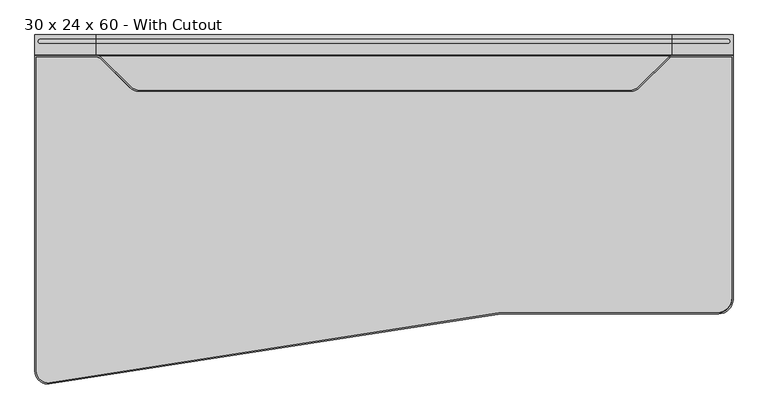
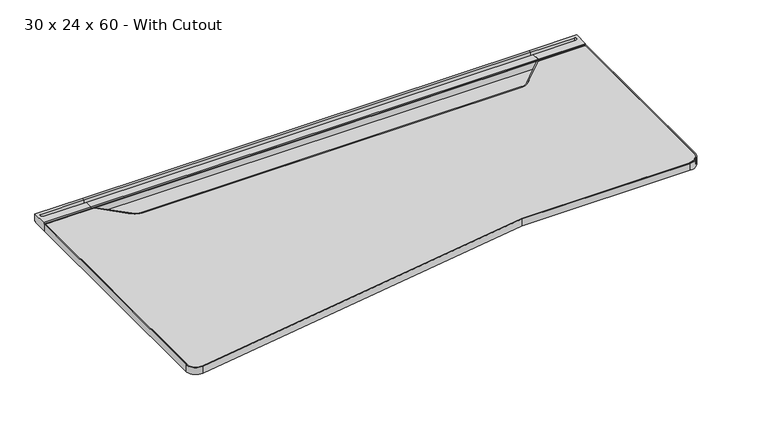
"""IFC4 building model written with IfcOpenShell, lengths in millimetres: furniture geometry, Steelcase - C Scape - Desking - Left Hand Transition - Non Sliding : 30 x 24 x 60 - With Cutout."""

from ifc_helpers import new_model, si_unit, point, frame, frame_2d, origin, place, context, project, spatial, polyline, circle_curve, trimmed, segment, composite_curve, outline, extrude, faceted_brep, source, transform, mapped, element, save
from ifc_brep_helpers import plane_surface, cylinder_surface, revolved_surface, advanced_brep


def furniture_30_x_24_x_60_with_cutout_45655707(model_context):
    return source(origin(), model_context, "Body", "SolidModel", [
        advanced_brep(
        [(436.2322876, -45.3135132, 703.3768), (436.2322876, -4.0331902, 703.3768), (436.2322876, -3.2278472, 705.1038636), (436.2322876, 0.0, 705.1038636), (436.2322876, 0.0, 725.932), (436.2322876, -8.5111084, 725.932), (436.2322876, -8.5111084, 713.486), (436.2322876, -19.3290527, 713.486), (436.2322876, -19.3290527, 725.932), (436.2322876, -42.7750923, 725.932), (436.2322876, -42.7750923, 722.4268341), (436.2322876, -45.3135132, 722.4268341), (303.2125, -45.3135132, 703.3768), (303.2125, -45.3135132, 722.4268341), (303.2125, -42.7750923, 722.4268341), (303.2125, -42.7750923, 725.932), (303.2125, 0.0, 725.932), (303.2125, 0.0, 705.1038636), (303.2125, -3.2278472, 705.1038636), (303.2125, -4.0331902, 703.3768), (314.9745728, -19.3290527, 725.932), (314.9745728, -8.5111084, 725.932), (314.9745728, -8.5111084, 713.486), (314.9745728, -19.3290527, 713.486)],
        [
            (0, 1),
            (1, 2),
            (2, 3),
            (3, 4),
            (4, 5),
            (5, 6),
            (6, 7),
            (7, 8),
            (8, 9),
            (9, 10),
            (10, 11),
            (11, 0),
            (12, 13),
            (13, 14),
            (14, 15),
            (15, 16),
            (16, 17),
            (17, 18),
            (18, 19),
            (19, 12),
            (0, 12),
            (19, 1),
            (18, 2),
            (17, 3),
            (16, 4),
            (15, 9),
            (8, 20),
            (20, 21, circle_curve(frame((314.9745728, -13.9200806, 725.932), z_axis=(0.0, 0.0, -1.0), x_axis=(1.0, 0.0, 0.0)), 5.4089722)),
            (21, 5),
            (14, 10),
            (13, 11),
            (6, 22),
            (22, 23, circle_curve(frame((314.9745728, -13.9200806, 713.486), z_axis=(0.0, 0.0, 1.0), x_axis=(1.0, 0.0, 0.0)), 5.4089722)),
            (23, 7),
            (21, 22),
            (20, 23),
        ],
        [
            plane_surface(frame((436.2322876, -45.3135132, 703.3768), z_axis=(1.0, 0.0, 0.0), x_axis=(0.0, 1.0, 0.0))),
            plane_surface(frame((303.2125, -45.3135132, 703.3768), z_axis=(-1.0, 0.0, 0.0), x_axis=(0.0, -1.0, 0.0))),
            plane_surface(frame((436.2322876, -45.3135132, 703.3768), z_axis=(0.0, 0.0, -1.0), x_axis=(-1.0, 0.0, 0.0))),
            plane_surface(frame((436.2322876, -4.0331902, 703.3768), z_axis=(0.0, 0.9063077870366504, -0.4226182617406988), x_axis=(-1.0, 0.0, 0.0))),
            plane_surface(frame((436.2322876, -3.2278472, 705.1038636), z_axis=(0.0, 0.0, -1.0), x_axis=(-1.0, 0.0, 0.0))),
            plane_surface(frame((436.2322876, 0.0, 705.1038636), z_axis=(0.0, 1.0, 0.0), x_axis=(-1.0, 0.0, 0.0))),
            plane_surface(frame((436.2322876, 0.0, 725.932), z_axis=(0.0, 0.0, 1.0), x_axis=(-1.0, 0.0, 0.0))),
            plane_surface(frame((436.2322876, -42.7750923, 725.932), z_axis=(0.0, -1.0, 0.0), x_axis=(-1.0, 0.0, 0.0))),
            plane_surface(frame((436.2322876, -42.7750923, 722.4268341), z_axis=(0.0, 0.0, 1.0), x_axis=(-1.0, 0.0, 0.0))),
            plane_surface(frame((436.2322876, -45.3135132, 722.4268341), z_axis=(0.0, -1.0, 0.0), x_axis=(-1.0, 0.0, 0.0))),
            plane_surface(frame((314.9745728, -8.5111084, 713.486), z_axis=(0.0, 0.0, 1.0), x_axis=(1.0, 0.0, 0.0))),
            plane_surface(frame((436.2322876, -8.5111084, 731.2180541), z_axis=(0.0, -1.0, 0.0), x_axis=(0.0, 0.0, -1.0))),
            revolved_surface(polyline([(320.38354499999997, -13.9200806, 725.932), (320.38354499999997, -13.9200806, 713.486)]), (314.9745728, -13.9200806, 713.486), (0.0, 0.0, 1.0)),
            plane_surface(frame((314.9745728, -19.3290527, 731.2180541), z_axis=(0.0, 1.0, 0.0), x_axis=(0.0, 0.0, -1.0))),
        ],
        [
            (0, [[1, 2, 3, 4, 5, 6, 7, 8, 9, 10, 11, 12]]),
            (1, [[13, 14, 15, 16, 17, 18, 19, 20]]),
            (2, [[-1, 21, -20, 22]]),
            (3, [[-2, -22, -19, 23]]),
            (4, [[-3, -23, -18, 24]]),
            (5, [[-4, -24, -17, 25]]),
            (6, [[-16, 26, -9, 27, 28, 29, -5, -25]]),
            (7, [[-10, -26, -15, 30]]),
            (8, [[-11, -30, -14, 31]]),
            (9, [[-12, -31, -13, -21]]),
            (10, [[32, 33, 34, -7]]),
            (11, [[-32, -6, -29, 35]]),
            (12, [[-33, -35, -28, 36]]),
            (13, [[-34, -36, -27, -8]]),
        ],
    ),
        faceted_brep([(322.2632632, -565.0752923, 700.7093833), (336.5383728, -565.0752923, 693.4200291), (417.9775879, -565.0752923, 693.4200291), (420.5981301, -565.0752923, 679.3263935), (436.2322876, -565.0752923, 679.3263935), (436.2322876, -565.0752923, 703.3768), (322.2632632, -565.0752923, 703.3768), (322.2632632, -4.0331902, 700.7093833), (322.2632632, -4.0331902, 703.3768), (436.2322876, -4.0331902, 703.3768), (436.2322876, -4.0331902, 629.3866), (429.8838347, -4.0331902, 629.3866), (417.9775879, -4.0331902, 693.4200291), (336.5383728, -4.0331902, 693.4200291), (429.8838347, -364.1172546, 629.3866), (422.7634051, -376.5599397, 667.6812472), (436.2322876, -364.1172546, 629.3866), (436.2322876, -376.5599397, 667.6812472)], [[[0, 1, 2, 3, 4, 5, 6]], [[7, 8, 9, 10, 11, 12, 13]], [[1, 0, 7, 13]], [[2, 1, 13, 12]], [[12, 11, 14, 15, 3, 2]], [[11, 10, 16, 14]], [[10, 9, 5, 4, 17, 16]], [[6, 5, 9, 8]], [[0, 6, 8, 7]], [[15, 17, 4, 3]], [[17, 15, 14, 16]]]),
        extrude(outline(composite_curve([segment(polyline([(-293.5216187, 657.3775839), (-559.0022133, 680.1371551)]), True, "CONTINUOUS"), segment(trimmed(circle_curve(frame_2d((-558.7581271, 682.9843154)), 2.8576039), [point((-559.0022133, 680.1371551))], [point((-561.5383043, 682.3236226))], False, "CARTESIAN"), True, "CONTINUOUS"), segment(polyline([(-561.5383043, 682.3236226), (-566.0887542, 701.4717905), (-557.8334441, 701.4717905), (-557.8334441, 703.3768), (-442.6683806, 703.3768), (-442.6683806, 696.3917953), (-318.2108611, 696.3917953), (-318.2108611, 703.3768), (-293.5216187, 703.3768), (-293.5216187, 657.3775839)]), True, "CONTINUOUS")], self_intersect=False)), frame((877.824, 0.0, 0.0), z_axis=(1.0, 0.0, 0.0), x_axis=(0.0, 1.0, 0.0)), (0.0, 0.0, 1.0), 73.152),
        advanced_brep(
        [(1694.1927124, -45.3135132, 703.3768), (1694.1927124, -45.3135132, 722.4268341), (1694.1927124, -42.7750923, 722.4268341), (1694.1927124, -42.7750923, 725.932), (1694.1927124, -19.3290527, 725.932), (1694.1927124, -19.3290527, 713.486), (1694.1927124, -8.5111084, 713.486), (1694.1927124, -8.5111084, 725.932), (1694.1927124, 0.0, 725.932), (1694.1927124, 0.0, 705.1038636), (1694.1927124, -3.2278472, 705.1038636), (1694.1927124, -4.0331902, 703.3768), (1827.2125, -45.3135132, 703.3768), (1827.2125, -4.0331902, 703.3768), (1827.2125, -3.2278472, 705.1038636), (1827.2125, 0.0, 705.1038636), (1827.2125, 0.0, 725.932), (1827.2125, -42.7750923, 725.932), (1827.2125, -42.7750923, 722.4268341), (1827.2125, -45.3135132, 722.4268341), (1815.4504272, -8.5111084, 725.932), (1815.4504272, -19.3290527, 725.932), (1815.4504272, -19.3290527, 713.486), (1815.4504272, -8.5111084, 713.486)],
        [
            (0, 1),
            (1, 2),
            (2, 3),
            (3, 4),
            (4, 5),
            (5, 6),
            (6, 7),
            (7, 8),
            (8, 9),
            (9, 10),
            (10, 11),
            (11, 0),
            (12, 13),
            (13, 14),
            (14, 15),
            (15, 16),
            (16, 17),
            (17, 18),
            (18, 19),
            (19, 12),
            (11, 13),
            (12, 0),
            (10, 14),
            (9, 15),
            (8, 16),
            (7, 20),
            (20, 21, circle_curve(frame((1815.4504272, -13.9200806, 725.932), z_axis=(0.0, 0.0, -1.0), x_axis=(-1.0, 0.0, 0.0)), 5.4089722)),
            (21, 4),
            (3, 17),
            (2, 18),
            (1, 19),
            (5, 22),
            (22, 23, circle_curve(frame((1815.4504272, -13.9200806, 713.486), z_axis=(0.0, 0.0, 1.0), x_axis=(-1.0, 0.0, 0.0)), 5.4089722)),
            (23, 6),
            (23, 20),
            (22, 21),
        ],
        [
            plane_surface(frame((1694.1927124, -45.3135132, 703.3768), z_axis=(-1.0, 0.0, 0.0), x_axis=(0.0, 1.0, 0.0))),
            plane_surface(frame((1827.2125, -45.3135132, 703.3768), z_axis=(1.0, 0.0, 0.0), x_axis=(0.0, -1.0, 0.0))),
            plane_surface(frame((1694.1927124, -45.3135132, 703.3768), z_axis=(0.0, 0.0, -1.0), x_axis=(1.0, 0.0, 0.0))),
            plane_surface(frame((1694.1927124, -4.0331902, 703.3768), z_axis=(0.0, 0.9063077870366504, -0.4226182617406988), x_axis=(1.0, 0.0, 0.0))),
            plane_surface(frame((1694.1927124, -3.2278472, 705.1038636), z_axis=(0.0, 0.0, -1.0), x_axis=(1.0, 0.0, 0.0))),
            plane_surface(frame((1694.1927124, 0.0, 705.1038636), z_axis=(0.0, 1.0, 0.0), x_axis=(1.0, 0.0, 0.0))),
            plane_surface(frame((1694.1927124, 0.0, 725.932), z_axis=(0.0, 0.0, 1.0), x_axis=(1.0, 0.0, 0.0))),
            plane_surface(frame((1694.1927124, -42.7750923, 725.932), z_axis=(0.0, -1.0, 0.0), x_axis=(1.0, 0.0, 0.0))),
            plane_surface(frame((1694.1927124, -42.7750923, 722.4268341), z_axis=(0.0, 0.0, 1.0), x_axis=(1.0, 0.0, 0.0))),
            plane_surface(frame((1694.1927124, -45.3135132, 722.4268341), z_axis=(0.0, -1.0, 0.0), x_axis=(1.0, 0.0, 0.0))),
            plane_surface(frame((1815.4504272, -8.5111084, 713.486), z_axis=(0.0, 0.0, 1.0), x_axis=(-1.0, 0.0, 0.0))),
            plane_surface(frame((1694.1927124, -8.5111084, 731.2180541), z_axis=(0.0, -1.0, 0.0), x_axis=(0.0, 0.0, -1.0))),
            revolved_surface(polyline([(1810.0414549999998, -13.9200806, 725.932), (1810.0414549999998, -13.9200806, 713.486)]), (1815.4504272, -13.9200806, 713.486), (0.0, 0.0, 1.0)),
            plane_surface(frame((1815.4504272, -19.3290527, 731.2180541), z_axis=(0.0, 1.0, 0.0), x_axis=(0.0, 0.0, -1.0))),
        ],
        [
            (0, [[1, 2, 3, 4, 5, 6, 7, 8, 9, 10, 11, 12]]),
            (1, [[13, 14, 15, 16, 17, 18, 19, 20]]),
            (2, [[21, -13, 22, -12]]),
            (3, [[23, -14, -21, -11]]),
            (4, [[24, -15, -23, -10]]),
            (5, [[25, -16, -24, -9]]),
            (6, [[-25, -8, 26, 27, 28, -4, 29, -17]]),
            (7, [[30, -18, -29, -3]]),
            (8, [[31, -19, -30, -2]]),
            (9, [[-22, -20, -31, -1]]),
            (10, [[-6, 32, 33, 34]]),
            (11, [[35, -26, -7, -34]]),
            (12, [[36, -27, -35, -33]]),
            (13, [[-5, -28, -36, -32]]),
        ],
    ),
        faceted_brep([(1808.1617368, -565.0752923, 700.7093833), (1808.1617368, -565.0752923, 703.3768), (1694.1927124, -565.0752923, 703.3768), (1694.1927124, -565.0752923, 679.3263935), (1709.8268699, -565.0752923, 679.3263935), (1712.4474121, -565.0752923, 693.4200291), (1793.8866272, -565.0752923, 693.4200291), (1808.1617368, -4.0331902, 700.7093833), (1793.8866272, -4.0331902, 693.4200291), (1712.4474121, -4.0331902, 693.4200291), (1700.5411653, -4.0331902, 629.3866), (1694.1927124, -4.0331902, 629.3866), (1694.1927124, -4.0331902, 703.3768), (1808.1617368, -4.0331902, 703.3768), (1707.6615949, -376.5599397, 667.6812472), (1700.5411653, -364.1172546, 629.3866), (1694.1927124, -364.1172546, 629.3866), (1694.1927124, -376.5599397, 667.6812472)], [[[0, 1, 2, 3, 4, 5, 6]], [[7, 8, 9, 10, 11, 12, 13]], [[6, 8, 7, 0]], [[5, 9, 8, 6]], [[9, 5, 4, 14, 15, 10]], [[10, 15, 16, 11]], [[11, 16, 17, 3, 2, 12]], [[1, 13, 12, 2]], [[0, 7, 13, 1]], [[14, 4, 3, 17]], [[17, 16, 15, 14]]]),
        extrude(outline(polyline([(-8.5111084, 725.932), (0.0, 725.932), (0.0, 705.1038636), (-3.2278472, 705.1038636), (-4.0331902, 703.3768), (-45.3135132, 703.3768), (-45.3135132, 722.4268341), (-42.7750923, 722.4268341), (-42.7750923, 725.932), (-19.3290527, 725.932), (-19.3290527, 713.486), (-8.5111084, 713.486), (-8.5111084, 725.932)])), frame((436.2322876, 0.0, 0.0), z_axis=(1.0, 0.0, 0.0), x_axis=(0.0, 1.0, 0.0)), (0.0, 0.0, 1.0), 1257.9604248),
        extrude(outline(polyline([(1694.1927124, -4.0331902), (1694.1927124, -293.5216187), (436.2322876, -293.5216187), (436.2322876, -4.0331902), (1694.1927124, -4.0331902)])), frame((0.0, 0.0, 629.3866), z_axis=(0.0, 0.0, 1.0), x_axis=(1.0, 0.0, 0.0)), (0.0, 0.0, 1.0), 73.9902),
        extrude(outline(composite_curve([segment(polyline([(306.2605, -48.3660689), (435.6372608, -48.3660689)]), True, "CONTINUOUS"), segment(trimmed(circle_curve(frame_2d((435.6372608, -64.9605938)), 16.5945249), [point((435.6372608, -48.3660689))], [point((447.3713581, -53.2264889))], False, "CARTESIAN"), True, "CONTINUOUS"), segment(polyline([(447.3713581, -53.2264889), (507.4994608, -113.3545523)]), True, "CONTINUOUS"), segment(trimmed(circle_curve(frame_2d((534.4402204, -86.4137752)), 38.1), [point((507.4994608, -113.3545523))], [point((534.4402204, -124.5137752))], True, "CARTESIAN"), True, "CONTINUOUS"), segment(polyline([(534.4402204, -124.5137752), (1599.1598212, -124.5137752)]), True, "CONTINUOUS"), segment(trimmed(circle_curve(frame_2d((1599.1598212, -86.4137752)), 38.1), [point((1599.1598212, -124.5137752))], [point((1626.1005905, -113.3545426))], True, "CARTESIAN"), True, "CONTINUOUS"), segment(polyline([(1626.1005905, -113.3545426), (1687.7230199, -51.7321087)]), True, "CONTINUOUS"), segment(trimmed(circle_curve(frame_2d((1695.45, -58.9180007)), 10.5519318), [point((1687.7230199, -51.7321087))], [point((1695.45, -48.3660689))], False, "CARTESIAN"), True, "CONTINUOUS"), segment(polyline([(1695.45, -48.3660689), (1824.1645, -48.3660689), (1824.1645, -574.7990234)]), True, "CONTINUOUS"), segment(trimmed(circle_curve(frame_2d((1792.4145, -574.7990234)), 31.75), [point((1824.1645, -574.7990234))], [point((1792.4145, -606.5490234))], False, "CARTESIAN"), True, "CONTINUOUS"), segment(polyline([(1792.4145, -606.5490234), (1320.7997595, -606.5490234), (334.6636568, -759.8823654)]), True, "CONTINUOUS"), segment(trimmed(circle_curve(frame_2d((331.6605, -734.6605286)), 25.4), [point((334.6636568, -759.8823654))], [point((306.2605, -734.6605286))], False, "CARTESIAN"), True, "CONTINUOUS"), segment(polyline([(306.2605, -734.6605286), (306.2605, -48.3660689)]), True, "CONTINUOUS")], self_intersect=False)), frame((0.0, 0.0, 703.3768), z_axis=(0.0, 0.0, 1.0), x_axis=(1.0, 0.0, 0.0)), (0.0, 0.0, 1.0), 20.5232),
        advanced_brep(
        [(1824.1625156, -577.8497165, 703.3768), (1795.4632087, -606.5490234, 703.3768), (1795.4632087, -606.5490234, 723.9), (1824.1625156, -577.8497165, 723.9), (1827.2134922, -577.8497165, 723.9), (1795.4632087, -609.6, 723.9), (1795.4632087, -609.6, 703.3768), (1827.2134922, -577.8497165, 703.3768), (1824.1625156, -48.3666358, 723.9), (1824.1625156, -48.3666358, 703.3768), (1827.2134922, -45.3156593, 703.3768), (1827.2134922, -45.3156593, 723.9), (1695.45, -48.3666358, 723.9), (1695.45, -48.3666358, 703.3768), (1695.45, -45.3156593, 703.3768), (1695.45, -45.3156593, 723.9), (1687.7234351, -51.7324948, 703.3768), (1687.7234351, -51.7324948, 723.9), (1685.4892627, -49.6547721, 723.9), (1685.4892627, -49.6547721, 703.3768), (1624.9189809, -114.5369541, 723.9), (1624.9189809, -114.5369541, 703.3768), (1622.7616146, -112.3795879, 703.3768), (1622.7616146, -112.3795879, 723.9), (1600.8314365, -124.5143421, 703.3768), (1600.8314365, -124.5143421, 723.9), (1600.8314365, -121.4633656, 723.9), (1600.8314365, -121.4633656, 703.3768), (532.7685947, -124.5143421, 723.9), (532.7685947, -124.5143421, 703.3768), (532.7685947, -121.4633656, 703.3768), (532.7685947, -121.4633656, 723.9), (508.6810781, -114.5369706, 703.3768), (508.6810781, -114.5369706, 723.9), (510.8384436, -112.3796037, 723.9), (510.8384436, -112.3796037, 703.3768), (445.9539317, -51.8098652, 723.9), (445.9539317, -51.8098652, 703.3768), (448.1112972, -49.6524983, 703.3768), (448.1112972, -49.6524983, 723.9), (436.2323173, -48.3666358, 703.3768), (436.2323173, -48.3666358, 723.9), (436.0816695, -45.3156593, 723.9), (436.0816695, -45.3156593, 703.3768), (306.261067, -48.3666358, 723.9), (306.261067, -48.3666358, 703.3768), (303.2100904, -45.3156593, 703.3768), (303.2100904, -45.3156593, 723.9), (306.261067, -734.6605286, 723.9), (306.261067, -734.6605286, 703.3768), (303.2100904, -734.6605286, 703.3768), (303.2100904, -734.6605286, 723.9), (334.6635898, -759.8818024, 703.3768), (334.6635898, -759.8818024, 723.9), (335.0243205, -762.9113785, 723.9), (335.0243205, -762.9113785, 703.3768), (1321.0307344, -609.6, 723.9), (1320.794954, -606.5490234, 723.9), (1320.794954, -606.5490234, 703.3768), (1321.0307344, -609.6, 703.3768)],
        [
            (0, 1, circle_curve(frame((1795.4632087, -577.8497165, 703.3768), z_axis=(0.0, 0.0, -1.0), x_axis=(0.0, -1.0, 0.0)), 28.6993069)),
            (1, 2),
            (2, 3, circle_curve(frame((1795.4632087, -577.8497165, 723.9), z_axis=(0.0, 0.0, 1.0), x_axis=(0.0, -1.0, 0.0)), 28.6993069)),
            (3, 0),
            (4, 5, circle_curve(frame((1795.4632087, -577.8497165, 723.9), z_axis=(0.0, 0.0, -1.0), x_axis=(0.0, -1.0, 0.0)), 31.7502835)),
            (5, 6),
            (6, 7, circle_curve(frame((1795.4632087, -577.8497165, 703.3768), z_axis=(0.0, 0.0, 1.0), x_axis=(0.0, -1.0, 0.0)), 31.7502835)),
            (7, 4),
            (3, 8),
            (8, 9),
            (9, 0),
            (7, 10),
            (10, 11),
            (11, 4),
            (8, 12),
            (12, 13),
            (13, 9),
            (10, 14),
            (14, 15),
            (15, 11),
            (16, 13, circle_curve(frame((1695.45, -58.9180007, 703.3768), z_axis=(0.0, 0.0, -1.0), x_axis=(0.0, 1.0, 0.0)), 10.5513648)),
            (12, 17, circle_curve(frame((1695.45, -58.9180007, 723.9), z_axis=(0.0, 0.0, 1.0), x_axis=(0.0, 1.0, 0.0)), 10.5513648)),
            (17, 16),
            (18, 15, circle_curve(frame((1695.45, -58.9180007, 723.9), z_axis=(0.0, 0.0, -1.0), x_axis=(0.0, 1.0, 0.0)), 13.6023414)),
            (14, 19, circle_curve(frame((1695.45, -58.9180007, 703.3768), z_axis=(0.0, 0.0, 1.0), x_axis=(0.0, 1.0, 0.0)), 13.6023414)),
            (19, 18),
            (17, 20),
            (20, 21),
            (21, 16),
            (19, 22),
            (22, 23),
            (23, 18),
            (24, 21, circle_curve(frame((1600.8314365, -90.4494114, 703.3768), z_axis=(0.0, 0.0, 1.0), x_axis=(0.7071068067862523, -0.7071067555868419, 0.0)), 34.0649308)),
            (20, 25, circle_curve(frame((1600.8314365, -90.4494114, 723.9), z_axis=(0.0, 0.0, -1.0), x_axis=(0.7071068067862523, -0.7071067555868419, 0.0)), 34.0649308)),
            (25, 24),
            (26, 23, circle_curve(frame((1600.8314365, -90.4494114, 723.9), z_axis=(0.0, 0.0, 1.0), x_axis=(0.7071068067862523, -0.7071067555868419, 0.0)), 31.0139542)),
            (22, 27, circle_curve(frame((1600.8314365, -90.4494114, 703.3768), z_axis=(0.0, 0.0, -1.0), x_axis=(0.7071068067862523, -0.7071067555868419, 0.0)), 31.0139542)),
            (27, 26),
            (25, 28),
            (28, 29),
            (29, 24),
            (27, 30),
            (30, 31),
            (31, 26),
            (32, 29, circle_curve(frame((532.7685947, -90.4494383, 703.3768), z_axis=(0.0, 0.0, 1.0), x_axis=(0.0, -1.0, 0.0)), 34.0649039)),
            (28, 33, circle_curve(frame((532.7685947, -90.4494383, 723.9), z_axis=(0.0, 0.0, -1.0), x_axis=(0.0, -1.0, 0.0)), 34.0649039)),
            (33, 32),
            (34, 31, circle_curve(frame((532.7685947, -90.4494383, 723.9), z_axis=(0.0, 0.0, 1.0), x_axis=(0.0, -1.0, 0.0)), 31.0139273)),
            (30, 35, circle_curve(frame((532.7685947, -90.4494383, 703.3768), z_axis=(0.0, 0.0, -1.0), x_axis=(0.0, -1.0, 0.0)), 31.0139273)),
            (35, 34),
            (33, 36),
            (36, 37),
            (37, 32),
            (35, 38),
            (38, 39),
            (39, 34),
            (40, 37, circle_curve(frame((437.4831504, -60.280652, 703.3768), z_axis=(0.0, 0.0, -1.0), x_axis=(0.7071065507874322, 0.7071070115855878, 0.0)), 11.9794977)),
            (36, 41, circle_curve(frame((437.4831504, -60.280652, 723.9), z_axis=(0.0, 0.0, 1.0), x_axis=(0.7071065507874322, 0.7071070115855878, 0.0)), 11.9794977)),
            (41, 40),
            (42, 39, circle_curve(frame((437.4831504, -60.280652, 723.9), z_axis=(0.0, 0.0, -1.0), x_axis=(0.7071065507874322, 0.7071070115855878, 0.0)), 15.0304743)),
            (38, 43, circle_curve(frame((437.4831504, -60.280652, 703.3768), z_axis=(0.0, 0.0, 1.0), x_axis=(0.7071065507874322, 0.7071070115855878, 0.0)), 15.0304743)),
            (43, 42),
            (41, 44),
            (44, 45),
            (45, 40),
            (43, 46),
            (46, 47),
            (47, 42),
            (44, 48),
            (48, 49),
            (49, 45),
            (46, 50),
            (50, 51),
            (51, 47),
            (52, 49, circle_curve(frame((331.6605, -734.6605286, 703.3768), z_axis=(0.0, 0.0, -1.0), x_axis=(-1.0, 0.0, 0.0)), 25.399433)),
            (48, 53, circle_curve(frame((331.6605, -734.6605286, 723.9), z_axis=(0.0, 0.0, 1.0), x_axis=(-1.0, 0.0, 0.0)), 25.399433)),
            (53, 52),
            (54, 51, circle_curve(frame((331.6605, -734.6605286, 723.9), z_axis=(0.0, 0.0, -1.0), x_axis=(-1.0, 0.0, 0.0)), 28.4504096)),
            (50, 55, circle_curve(frame((331.6605, -734.6605286, 703.3768), z_axis=(0.0, 0.0, 1.0), x_axis=(-1.0, 0.0, 0.0)), 28.4504096)),
            (55, 54),
            (54, 56),
            (56, 5),
            (57, 53),
            (2, 57),
            (57, 58),
            (58, 52),
            (59, 55),
            (6, 59),
            (58, 1),
            (59, 56),
        ],
        [
            revolved_surface(polyline([(1795.4632087, -606.5490234, 723.9), (1795.4632087, -606.5490234, 703.3768)]), (1795.4632087, -577.8497165, 0.0), (0.0, 0.0, 1.0)),
            cylinder_surface(frame((1795.4632087, -577.8497165, 0.0), z_axis=(0.0, 0.0, 1.0), x_axis=(0.0, -1.0, 0.0)), 31.7502835),
            plane_surface(frame((1824.1625156, -577.8497165, 723.9), z_axis=(-1.0, 0.0, 0.0), x_axis=(0.0, 1.0, 0.0))),
            plane_surface(frame((1827.2134922, -577.8497165, 703.3768), z_axis=(1.0, 0.0, 0.0), x_axis=(0.0, 1.0, 0.0))),
            plane_surface(frame((1824.1625156, -48.3666358, 723.9), z_axis=(0.0, -1.0, 0.0), x_axis=(-1.0, 0.0, 0.0))),
            plane_surface(frame((1827.2134922, -45.3156593, 703.3768), z_axis=(0.0, 1.0, 0.0), x_axis=(-1.0, 0.0, 0.0))),
            revolved_surface(polyline([(1695.45, -48.3666359, 723.9), (1695.45, -48.3666359, 703.3768)]), (1695.45, -58.9180007, 0.0), (0.0, 0.0, 1.0)),
            cylinder_surface(frame((1695.45, -58.9180007, 0.0), z_axis=(0.0, 0.0, 1.0), x_axis=(0.0, 1.0, 0.0)), 13.6023414),
            plane_surface(frame((1687.7234354, -51.7324951, 723.9), z_axis=(0.7071068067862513, -0.7071067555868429, 0.0), x_axis=(-0.7071067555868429, -0.7071068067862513, 0.0))),
            plane_surface(frame((1685.4877928, -49.6534052, 703.3768), z_axis=(-0.7071068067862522, 0.707106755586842, 0.0), x_axis=(-0.707106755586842, -0.7071068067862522, 0.0))),
            cylinder_surface(frame((1600.8314365, -90.4494114, 0.0), z_axis=(0.0, 0.0, -1.0), x_axis=(0.7071068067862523, -0.7071067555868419, 0.0)), 34.0649308),
            revolved_surface(polyline([(1622.7616146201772, -112.37958793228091, 703.3768), (1622.7616146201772, -112.37958793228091, 723.9)]), (1600.8314365, -90.4494114, 0.0), (0.0, 0.0, -1.0)),
            plane_surface(frame((1600.8314365, -124.5143421, 723.9), z_axis=(0.0, -1.0, 0.0), x_axis=(-1.0, 0.0, 0.0))),
            plane_surface(frame((1600.8314365, -121.4633656, 703.3768), z_axis=(0.0, 1.0, 0.0), x_axis=(-1.0, 0.0, 0.0))),
            cylinder_surface(frame((532.7685947, -90.4494383, 0.0), z_axis=(0.0, 0.0, -1.0), x_axis=(0.0, -1.0, 0.0)), 34.0649039),
            revolved_surface(polyline([(532.7685947, -121.4633656, 703.3768), (532.7685947, -121.4633656, 723.9)]), (532.7685947, -90.4494383, 0.0), (0.0, 0.0, -1.0)),
            plane_surface(frame((508.6810781, -114.5369706, 723.9), z_axis=(-0.7071065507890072, -0.7071070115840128, 0.0), x_axis=(-0.7071070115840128, 0.7071065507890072, 0.0))),
            plane_surface(frame((510.8384436, -112.3796037, 703.3768), z_axis=(0.7071065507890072, 0.7071070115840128, 0.0), x_axis=(-0.7071070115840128, 0.7071065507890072, 0.0))),
            revolved_surface(polyline([(445.953931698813, -51.80986518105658, 723.9), (445.953931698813, -51.80986518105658, 703.3768)]), (437.4831504, -60.280652, 0.0), (0.0, 0.0, 1.0)),
            cylinder_surface(frame((437.4831504, -60.280652, 0.0), z_axis=(0.0, 0.0, 1.0), x_axis=(0.7071065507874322, 0.7071070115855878, 0.0)), 15.0304743),
            plane_surface(frame((436.2323173, -48.3666358, 723.9), z_axis=(0.0, -1.0, 0.0), x_axis=(-1.0, 0.0, 0.0))),
            plane_surface(frame((436.0816695, -45.3156593, 703.3768), z_axis=(0.0, 1.0, 0.0), x_axis=(-1.0, 0.0, 0.0))),
            plane_surface(frame((306.261067, -48.3666358, 723.9), z_axis=(1.0, 0.0, 0.0), x_axis=(0.0, -1.0, 0.0))),
            plane_surface(frame((303.2100904, -45.3156593, 703.3768), z_axis=(-1.0, 0.0, 0.0), x_axis=(0.0, -1.0, 0.0))),
            revolved_surface(polyline([(306.261067, -734.6605286, 723.9), (306.261067, -734.6605286, 703.3768)]), (331.6605, -734.6605286, 0.0), (0.0, 0.0, 1.0)),
            cylinder_surface(frame((331.6605, -734.6605286, 0.0), z_axis=(0.0, 0.0, 1.0), x_axis=(-1.0, 0.0, 0.0)), 28.4504096),
            plane_surface(frame((335.024551, -762.9133143, 723.9), z_axis=(0.0, 0.0, 1.0), x_axis=(0.9881264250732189, 0.1536429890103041, 0.0))),
            plane_surface(frame((334.6635897, -759.881802, 723.9), z_axis=(-0.1536429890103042, 0.9881264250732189, 0.0), x_axis=(0.9881264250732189, 0.1536429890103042, 0.0))),
            plane_surface(frame((334.6635897, -759.881802, 703.3768), z_axis=(0.0, 0.0, -1.0000000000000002), x_axis=(0.9881264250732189, 0.1536429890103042, 0.0))),
            plane_surface(frame((335.024551, -762.9133143, 703.3768), z_axis=(0.15364298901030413, -0.9881264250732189, 0.0), x_axis=(0.9881264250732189, 0.15364298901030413, 0.0))),
            plane_surface(frame((1320.794954, -606.5490234, 723.9), z_axis=(0.0, 1.0, 0.0), x_axis=(1.0, 0.0, 0.0))),
            plane_surface(frame((1321.0307344, -609.6, 703.3768), z_axis=(0.0, -1.0, 0.0), x_axis=(1.0, 0.0, 0.0))),
        ],
        [
            (0, [[1, 2, 3, 4]]),
            (1, [[5, 6, 7, 8]]),
            (2, [[-4, 9, 10, 11]]),
            (3, [[-8, 12, 13, 14]]),
            (4, [[-10, 15, 16, 17]]),
            (5, [[-13, 18, 19, 20]]),
            (6, [[21, -16, 22, 23]]),
            (7, [[24, -19, 25, 26]]),
            (8, [[-23, 27, 28, 29]]),
            (9, [[-26, 30, 31, 32]]),
            (10, [[33, -28, 34, 35]]),
            (11, [[36, -31, 37, 38]]),
            (12, [[-35, 39, 40, 41]]),
            (13, [[-38, 42, 43, 44]]),
            (14, [[45, -40, 46, 47]]),
            (15, [[48, -43, 49, 50]]),
            (16, [[-47, 51, 52, 53]]),
            (17, [[-50, 54, 55, 56]]),
            (18, [[57, -52, 58, 59]]),
            (19, [[60, -55, 61, 62]]),
            (20, [[-59, 63, 64, 65]]),
            (21, [[-62, 66, 67, 68]]),
            (22, [[-64, 69, 70, 71]]),
            (23, [[-67, 72, 73, 74]]),
            (24, [[75, -70, 76, 77]]),
            (25, [[78, -73, 79, 80]]),
            (26, [[-74, -78, 81, 82, -5, -14, -20, -24, -32, -36, -44, -48, -56, -60, -68], [83, -76, -69, -63, -58, -51, -46, -39, -34, -27, -22, -15, -9, -3, 84]]),
            (27, [[-77, -83, 85, 86]]),
            (28, [[87, -79, -72, -66, -61, -54, -49, -42, -37, -30, -25, -18, -12, -7, 88], [-71, -75, -86, 89, -1, -11, -17, -21, -29, -33, -41, -45, -53, -57, -65]]),
            (29, [[-80, -87, 90, -81]]),
            (30, [[-85, -84, -2, -89]]),
            (31, [[-90, -88, -6, -82]]),
        ],
    ),
    ])


if __name__ == "__main__":
    model = new_model("IFC4")
    model_context = context("Model", 3, world=origin())
    ifc_project = project(units=[si_unit("LENGTHUNIT", "METRE", prefix="MILLI")], contexts=[model_context])
    site = spatial("IfcSite", under=ifc_project)
    building = spatial("IfcBuilding", under=site)
    placement = place(None, origin())
    furniture_30_x_24_x_60_with_cutout_shape = furniture_30_x_24_x_60_with_cutout_45655707(model_context)
    element("IfcFurniture", 1, ObjectType="Steelcase - C Scape - Desking - Left Hand Transition - Non Sliding : 30 x 24 x 60 - With Cutout", at=placement, inside=building, context=model_context, shape_type="MappedRepresentation", body=[
        mapped(furniture_30_x_24_x_60_with_cutout_shape, transform((0.0, 0.0, 0.0), x_axis=(1.0, 0.0, 0.0), y_axis=(0.0, 1.0, 0.0), z_axis=(0.0, 0.0, 1.0))),
    ])
    save(model, "model.ifc")
